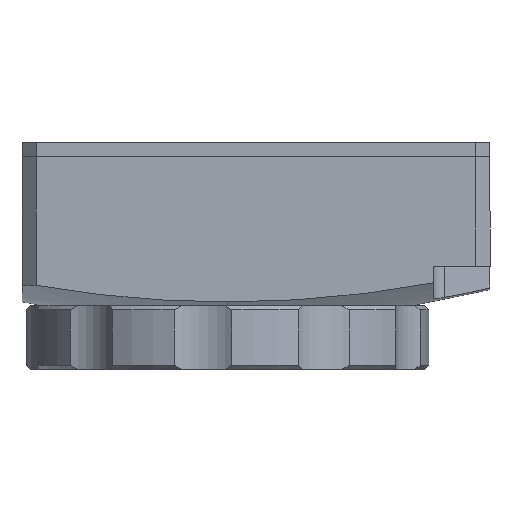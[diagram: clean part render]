
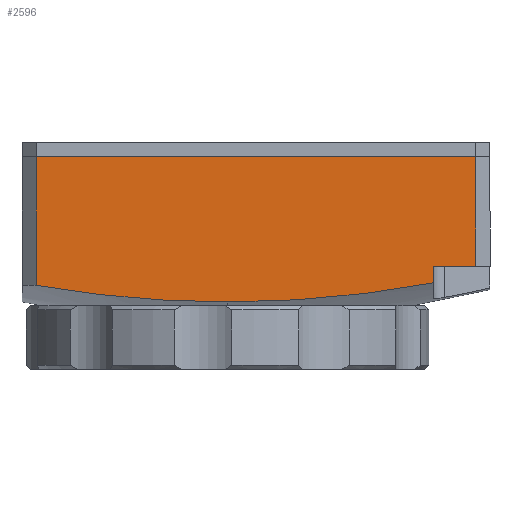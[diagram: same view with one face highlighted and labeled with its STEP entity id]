
A CAD part, left-side view. The second image highlights one B-rep face of the part: STEP entity #2596.
In plain terms, the highlighted planar face has unit normal (-1, 0, 0).
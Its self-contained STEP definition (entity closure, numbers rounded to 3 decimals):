
#16 = AXIS2_PLACEMENT_3D ( 'NONE', #5657, #644, #5013 ) ;
#217 = CARTESIAN_POINT ( 'NONE',  ( -14.5, 13.5, 10.5 ) ) ;
#356 = AXIS2_PLACEMENT_3D ( 'NONE', #6421, #2553, #5896 ) ;
#438 = CARTESIAN_POINT ( 'NONE',  ( -14.5, -17.5, 2.785 ) ) ;
#463 = CIRCLE ( 'NONE', #356, 78.675 ) ;
#472 = EDGE_CURVE ( 'NONE', #1467, #7192, #463, .T. ) ;
#546 = VECTOR ( 'NONE', #6329, 1000. ) ;
#644 = DIRECTION ( 'NONE',  ( 1., 0., 0. ) ) ;
#729 = DIRECTION ( 'NONE',  ( 0., 0., -1. ) ) ;
#963 = CARTESIAN_POINT ( 'NONE',  ( -14.5, -17.5, 10.5 ) ) ;
#1094 = DIRECTION ( 'NONE',  ( 0., -1., 0. ) ) ;
#1407 = VERTEX_POINT ( 'NONE', #963 ) ;
#1408 = VECTOR ( 'NONE', #7014, 1000. ) ;
#1467 = VERTEX_POINT ( 'NONE', #1621 ) ;
#1621 = CARTESIAN_POINT ( 'NONE',  ( -14.5, 0., 0.262 ) ) ;
#1711 = EDGE_CURVE ( 'NONE', #4556, #6758, #4776, .T. ) ;
#1840 = LINE ( 'NONE', #217, #546 ) ;
#1848 = ORIENTED_EDGE ( 'NONE', *, *, #472, .F. ) ;
#1849 = DIRECTION ( 'NONE',  ( 0., 1., 0. ) ) ;
#2388 = FACE_OUTER_BOUND ( 'NONE', #5621, .T. ) ;
#2553 = DIRECTION ( 'NONE',  ( 1., 0., 0. ) ) ;
#2596 = ADVANCED_FACE ( 'NONE', ( #2388 ), #4645, .F. ) ;
#2725 = EDGE_CURVE ( 'NONE', #1407, #6624, #4035, .T. ) ;
#2853 = VECTOR ( 'NONE', #729, 1000. ) ;
#2895 = ORIENTED_EDGE ( 'NONE', *, *, #4140, .F. ) ;
#2952 = LINE ( 'NONE', #5806, #1408 ) ;
#2968 = CARTESIAN_POINT ( 'NONE',  ( -14.5, 13.5, 1.429 ) ) ;
#2995 = DIRECTION ( 'NONE',  ( 0., 0., 1. ) ) ;
#3003 = EDGE_CURVE ( 'NONE', #6758, #6624, #4450, .T. ) ;
#3309 = ORIENTED_EDGE ( 'NONE', *, *, #6437, .F. ) ;
#4035 = LINE ( 'NONE', #5198, #2853 ) ;
#4036 = AXIS2_PLACEMENT_3D ( 'NONE', #6891, #5800, #1849 ) ;
#4140 = EDGE_CURVE ( 'NONE', #5868, #1407, #1840, .T. ) ;
#4306 = CARTESIAN_POINT ( 'NONE',  ( -14.5, 13.5, 10.5 ) ) ;
#4450 = LINE ( 'NONE', #6611, #5088 ) ;
#4556 = VERTEX_POINT ( 'NONE', #4778 ) ;
#4645 = PLANE ( 'NONE',  #4036 ) ;
#4776 = LINE ( 'NONE', #5780, #5240 ) ;
#4778 = CARTESIAN_POINT ( 'NONE',  ( -14.5, -14.5, 1.609 ) ) ;
#4811 = ORIENTED_EDGE ( 'NONE', *, *, #3003, .T. ) ;
#5013 = DIRECTION ( 'NONE',  ( 0., 1., 0. ) ) ;
#5018 = ORIENTED_EDGE ( 'NONE', *, *, #2725, .F. ) ;
#5088 = VECTOR ( 'NONE', #1094, 1000. ) ;
#5198 = CARTESIAN_POINT ( 'NONE',  ( -14.5, -17.5, 10.5 ) ) ;
#5212 = CARTESIAN_POINT ( 'NONE',  ( -14.5, -14.5, 2.785 ) ) ;
#5240 = VECTOR ( 'NONE', #2995, 1000. ) ;
#5610 = CIRCLE ( 'NONE', #16, 78.675 ) ;
#5621 = EDGE_LOOP ( 'NONE', ( #3309, #6790, #4811, #5018, #2895, #6257, #1848 ) ) ;
#5657 = CARTESIAN_POINT ( 'NONE',  ( -14.5, 0., 78.937 ) ) ;
#5780 = CARTESIAN_POINT ( 'NONE',  ( -14.5, -14.5, 0. ) ) ;
#5800 = DIRECTION ( 'NONE',  ( 1., 0., 0. ) ) ;
#5806 = CARTESIAN_POINT ( 'NONE',  ( -14.5, 13.5, 10.5 ) ) ;
#5868 = VERTEX_POINT ( 'NONE', #4306 ) ;
#5896 = DIRECTION ( 'NONE',  ( 0., 1., 0. ) ) ;
#6257 = ORIENTED_EDGE ( 'NONE', *, *, #6515, .T. ) ;
#6329 = DIRECTION ( 'NONE',  ( 0., -1., 0. ) ) ;
#6421 = CARTESIAN_POINT ( 'NONE',  ( -14.5, 0., 78.937 ) ) ;
#6437 = EDGE_CURVE ( 'NONE', #4556, #1467, #5610, .T. ) ;
#6515 = EDGE_CURVE ( 'NONE', #5868, #7192, #2952, .T. ) ;
#6611 = CARTESIAN_POINT ( 'NONE',  ( -14.5, -18.5, 2.785 ) ) ;
#6624 = VERTEX_POINT ( 'NONE', #438 ) ;
#6758 = VERTEX_POINT ( 'NONE', #5212 ) ;
#6790 = ORIENTED_EDGE ( 'NONE', *, *, #1711, .T. ) ;
#6891 = CARTESIAN_POINT ( 'NONE',  ( -14.5, 13.5, 10.5 ) ) ;
#7014 = DIRECTION ( 'NONE',  ( 0., 0., -1. ) ) ;
#7192 = VERTEX_POINT ( 'NONE', #2968 ) ;
